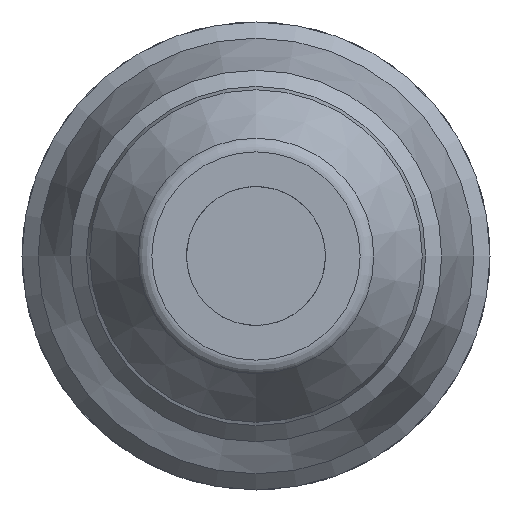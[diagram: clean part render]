
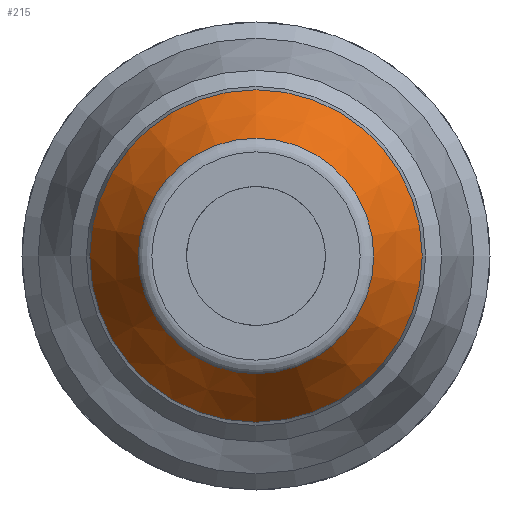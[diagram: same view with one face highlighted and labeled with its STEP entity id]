
A CAD part, front view. The second image highlights one B-rep face of the part: STEP entity #215.
In plain terms, the highlighted conical face has half-angle 32.4 degrees and reference radius 5.15 mm.
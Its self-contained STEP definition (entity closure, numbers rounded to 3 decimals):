
#215 = ADVANCED_FACE( '', ( #513, #514 ), #515, .T. );
#513 = FACE_OUTER_BOUND( '', #918, .T. );
#514 = FACE_BOUND( '', #919, .T. );
#515 = CONICAL_SURFACE( '', #920, 5.15, 0.565 );
#918 = EDGE_LOOP( '', ( #1530 ) );
#919 = EDGE_LOOP( '', ( #1531 ) );
#920 = AXIS2_PLACEMENT_3D( '', #1532, #1533, #1534 );
#1530 = ORIENTED_EDGE( '', *, *, #2367, .F. );
#1531 = ORIENTED_EDGE( '', *, *, #2368, .T. );
#1532 = CARTESIAN_POINT( '', ( 0., -21.496, 0. ) );
#1533 = DIRECTION( '', ( 0., 1., 0. ) );
#1534 = DIRECTION( '', ( 0., 0., -1. ) );
#2367 = EDGE_CURVE( '', #2830, #2830, #2831, .T. );
#2368 = EDGE_CURVE( '', #2832, #2832, #2833, .T. );
#2830 = VERTEX_POINT( '', #3963 );
#2831 = CIRCLE( '', #3964, 5.15 );
#2832 = VERTEX_POINT( '', #3965 );
#2833 = CIRCLE( '', #3966, 3.647 );
#3963 = CARTESIAN_POINT( '', ( 0., -21.496, -5.15 ) );
#3964 = AXIS2_PLACEMENT_3D( '', #4497, #4498, #4499 );
#3965 = CARTESIAN_POINT( '', ( 0., -23.864, 3.647 ) );
#3966 = AXIS2_PLACEMENT_3D( '', #4500, #4501, #4502 );
#4497 = CARTESIAN_POINT( '', ( 0., -21.496, 0. ) );
#4498 = DIRECTION( '', ( 0., 1., 0. ) );
#4499 = DIRECTION( '', ( 0., 0., -1. ) );
#4500 = CARTESIAN_POINT( '', ( 0., -23.864, 0. ) );
#4501 = DIRECTION( '', ( 0., 1., 0. ) );
#4502 = DIRECTION( '', ( 0., 0., 1. ) );
